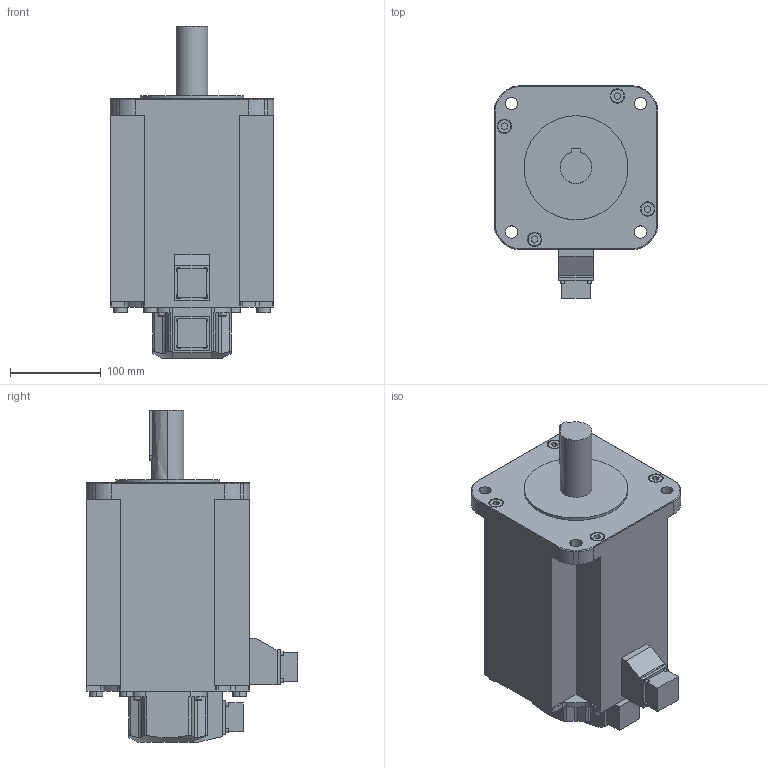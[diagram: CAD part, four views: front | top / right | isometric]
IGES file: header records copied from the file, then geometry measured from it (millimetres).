
Start section:  PTC IGES file: rsmh_50atk3.igs
Global section: file name: rsmh_50atk3.igs; native system: Pro/ENGINEER by Parametric Technology Corporation; preprocessor: 2004440; author: Administrator; organization: Unknown; date: 070829.192414; units: millimetre
Bounding box: 180 x 233 x 365 mm (x, y, z)
Volume: 6775510.5 mm3; surface area: 274356.5 mm2
Topology: 1 solids, 1 shells, 290 faces, 744 edges, 488 vertices
Faces by surface type: bspline 164, revolution 126
